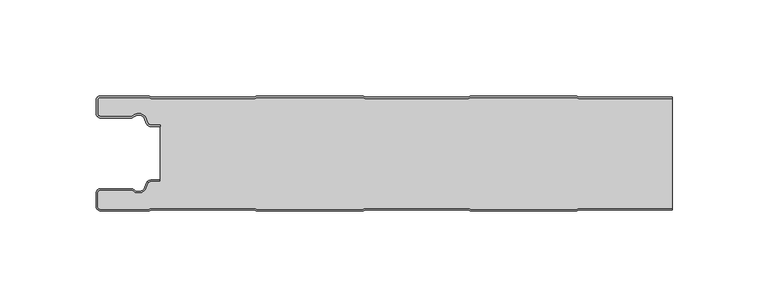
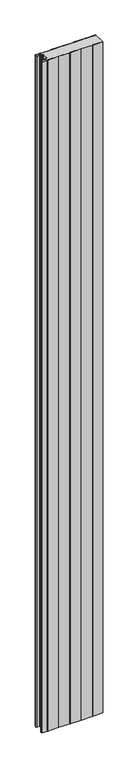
"""IFC4 building model written with IfcOpenShell, lengths in millimetres: plate geometry, ACH_Panel-Frigorífico_PUR-PIR : ACH_Panel-Frigorífico-PIR_60mm."""

from ifc_helpers import new_model, si_unit, point, frame_2d, origin, origin_with_axes, place, context, project, spatial, polyline, circle_curve, trimmed, segment, composite_curve, outline, extrude, source, transform, mapped, element, save


def plate_998a251c(model_context):
    return source(origin(), model_context, "Body", "SweptSolid", [
        extrude(outline(composite_curve([segment(trimmed(circle_curve(frame_2d((-147.49499, -9.0180361)), 2.50501), [point((-147.49499, -11.5230461))], [point((-150.0, -9.0180361))], False, "CARTESIAN"), True, "CONTINUOUS"), segment(polyline([(-150.0, -9.0180361), (-150.0, -2.50501)]), True, "CONTINUOUS"), segment(trimmed(circle_curve(frame_2d((-147.49499, -2.50501)), 2.50501), [point((-150.0, -2.50501))], [point((-147.49499, 0.0))], False, "CARTESIAN"), True, "CONTINUOUS"), segment(polyline([(-147.49499, 0.0), (-122.2103007, 0.0), (-121.028188, -0.6012024), (-67.6391467, -0.6012024), (-66.457034, 0.0), (-10.8776353, 0.0), (-9.6955227, -0.6012024), (43.6935186, -0.6012024), (44.8756313, 0.0), (100.45503, 0.0), (101.6371427, -0.6012024), (150.0, -0.6012024), (150.0, -1.4012024), (101.4453963, -1.4012024), (100.2632836, -0.8), (45.0673777, -0.8), (43.885265, -1.4012024), (-9.887269, -1.4012024), (-11.0693817, -0.8), (-66.2652876, -0.8), (-67.4474003, -1.4012024), (-121.2199344, -1.4012024), (-122.4020471, -0.8), (-147.49499, -0.8)]), True, "CONTINUOUS"), segment(trimmed(circle_curve(frame_2d((-147.49499, -2.50501)), 1.70501), [point((-147.49499, -0.8))], [point((-149.2, -2.50501))], True, "CARTESIAN"), True, "CONTINUOUS"), segment(polyline([(-149.2, -2.50501), (-149.2, -9.0180361)]), True, "CONTINUOUS"), segment(trimmed(circle_curve(frame_2d((-147.49499, -9.0180361)), 1.70501), [point((-149.2, -9.0180361))], [point((-147.49499, -10.7230461))], True, "CARTESIAN"), True, "CONTINUOUS"), segment(polyline([(-147.49499, -10.7230461), (-131.8173283, -10.7230461)]), True, "CONTINUOUS"), segment(trimmed(circle_curve(frame_2d((-131.8173283, -9.0180361)), 1.70501), [point((-131.8173283, -10.7230461))], [point((-130.6895701, -10.2967936))], True, "CARTESIAN"), True, "CONTINUOUS"), segment(trimmed(circle_curve(frame_2d((-127.8407481, -13.5270541)), 4.307014), [point((-130.6895701, -10.2967936))], [point((-123.7934788, -12.0539686))], False, "CARTESIAN"), True, "CONTINUOUS"), segment(polyline([(-123.7934788, -12.0539686), (-123.0450711, -14.1102019)]), True, "CONTINUOUS"), segment(trimmed(circle_curve(frame_2d((-121.4428858, -13.5270541)), 1.70501), [point((-123.0450711, -14.1102019))], [point((-121.4428858, -15.2320641))], True, "CARTESIAN"), True, "CONTINUOUS"), segment(polyline([(-121.4428858, -15.2320641), (-116.4328657, -15.2320641), (-116.4328657, -16.0320641), (-121.4428858, -16.0320641)]), True, "CONTINUOUS"), segment(trimmed(circle_curve(frame_2d((-121.4428858, -13.5270541)), 2.50501), [point((-121.4428858, -16.0320641))], [point((-123.7968252, -14.383818))], False, "CARTESIAN"), True, "CONTINUOUS"), segment(polyline([(-123.7968252, -14.383818), (-124.5452329, -12.3275847)]), True, "CONTINUOUS"), segment(trimmed(circle_curve(frame_2d((-127.8407481, -13.5270541)), 3.507014), [point((-124.5452329, -12.3275847))], [point((-130.1604199, -10.8967936))], True, "CARTESIAN"), True, "CONTINUOUS"), segment(trimmed(circle_curve(frame_2d((-131.8173283, -9.0180361)), 2.50501), [point((-130.1604199, -10.8967936))], [point((-131.8173283, -11.5230461))], False, "CARTESIAN"), True, "CONTINUOUS"), segment(polyline([(-131.8173283, -11.5230461), (-147.49499, -11.5230461)]), True, "CONTINUOUS")], self_intersect=False)), origin_with_axes(), (0.0, 0.0, 1.0), 3500.0),
        extrude(outline(composite_curve([segment(trimmed(circle_curve(frame_2d((-121.4428858, -13.5270541)), 1.70501), [point((-121.4428858, -15.2320641))], [point((-123.0450711, -14.1102019))], False, "CARTESIAN"), True, "CONTINUOUS"), segment(polyline([(-123.0450711, -14.1102019), (-123.7934788, -12.0539686)]), True, "CONTINUOUS"), segment(trimmed(circle_curve(frame_2d((-127.8407481, -13.5270541)), 4.307014), [point((-123.7934788, -12.0539686))], [point((-130.6895701, -10.2967936))], True, "CARTESIAN"), True, "CONTINUOUS"), segment(trimmed(circle_curve(frame_2d((-131.8173283, -9.0180361)), 1.70501), [point((-130.6895701, -10.2967936))], [point((-131.8173283, -10.7230461))], False, "CARTESIAN"), True, "CONTINUOUS"), segment(polyline([(-131.8173283, -10.7230461), (-147.49499, -10.7230461)]), True, "CONTINUOUS"), segment(trimmed(circle_curve(frame_2d((-147.49499, -9.0180361)), 1.70501), [point((-147.49499, -10.7230461))], [point((-149.2, -9.0180361))], False, "CARTESIAN"), True, "CONTINUOUS"), segment(polyline([(-149.2, -9.0180361), (-149.2, -2.50501)]), True, "CONTINUOUS"), segment(trimmed(circle_curve(frame_2d((-147.49499, -2.50501)), 1.70501), [point((-149.2, -2.50501))], [point((-147.49499, -0.8))], False, "CARTESIAN"), True, "CONTINUOUS"), segment(polyline([(-147.49499, -0.8), (-122.4020471, -0.8), (-121.2199344, -1.4012024), (-67.4474003, -1.4012024), (-66.2652876, -0.8), (-11.0693817, -0.8), (-9.887269, -1.4012024), (43.885265, -1.4012024), (45.0673777, -0.8), (100.2632836, -0.8), (101.4453963, -1.4012024), (150.0, -1.4012024), (150.0, -58.5987976), (101.4453963, -58.5987976), (100.2632836, -59.2), (45.0673777, -59.2), (43.885265, -58.5987976), (-9.887269, -58.5987976), (-11.0693817, -59.2), (-66.2652876, -59.2), (-67.4474003, -58.5987976), (-121.2199344, -58.5987976), (-122.4020471, -59.2), (-147.49499, -59.2)]), True, "CONTINUOUS"), segment(trimmed(circle_curve(frame_2d((-147.49499, -57.49499)), 1.70501), [point((-147.49499, -59.2))], [point((-149.2, -57.49499))], False, "CARTESIAN"), True, "CONTINUOUS"), segment(polyline([(-149.2, -57.49499), (-149.2, -50.9819639)]), True, "CONTINUOUS"), segment(trimmed(circle_curve(frame_2d((-147.49499, -50.9819639)), 1.70501), [point((-149.2, -50.9819639))], [point((-147.49499, -49.2769539))], False, "CARTESIAN"), True, "CONTINUOUS"), segment(polyline([(-147.49499, -49.2769539), (-131.8173283, -49.2769539)]), True, "CONTINUOUS"), segment(trimmed(circle_curve(frame_2d((-131.8173283, -50.9819639)), 1.70501), [point((-131.8173283, -49.2769539))], [point((-130.6895701, -49.7032064))], False, "CARTESIAN"), True, "CONTINUOUS"), segment(trimmed(circle_curve(frame_2d((-127.8407481, -46.4729459)), 4.307014), [point((-130.6895701, -49.7032064))], [point((-123.7934788, -47.9460314))], True, "CARTESIAN"), True, "CONTINUOUS"), segment(polyline([(-123.7934788, -47.9460314), (-123.0450711, -45.8897981)]), True, "CONTINUOUS"), segment(trimmed(circle_curve(frame_2d((-121.4428858, -46.4729459)), 1.70501), [point((-123.0450711, -45.8897981))], [point((-121.4428858, -44.7679359))], False, "CARTESIAN"), True, "CONTINUOUS"), segment(polyline([(-121.4428858, -44.7679359), (-116.4328657, -44.7679359), (-116.4328657, -15.2320641), (-121.4428858, -15.2320641)]), True, "CONTINUOUS")], self_intersect=False)), origin_with_axes(), (0.0, 0.0, 1.0), 3500.0),
        extrude(outline(composite_curve([segment(polyline([(-147.49499, -48.4769539), (-131.8173283, -48.4769539)]), True, "CONTINUOUS"), segment(trimmed(circle_curve(frame_2d((-131.8173283, -50.9819639)), 2.50501), [point((-131.8173283, -48.4769539))], [point((-130.1604199, -49.1032064))], False, "CARTESIAN"), True, "CONTINUOUS"), segment(trimmed(circle_curve(frame_2d((-127.8407481, -46.4729459)), 3.507014), [point((-130.1604199, -49.1032064))], [point((-124.5452329, -47.6724153))], True, "CARTESIAN"), True, "CONTINUOUS"), segment(polyline([(-124.5452329, -47.6724153), (-123.7968252, -45.616182)]), True, "CONTINUOUS"), segment(trimmed(circle_curve(frame_2d((-121.4428858, -46.4729459)), 2.50501), [point((-123.7968252, -45.616182))], [point((-121.4428858, -43.9679359))], False, "CARTESIAN"), True, "CONTINUOUS"), segment(polyline([(-121.4428858, -43.9679359), (-116.4328657, -43.9679359), (-116.4328657, -44.7679359), (-121.4428858, -44.7679359)]), True, "CONTINUOUS"), segment(trimmed(circle_curve(frame_2d((-121.4428858, -46.4729459)), 1.70501), [point((-121.4428858, -44.7679359))], [point((-123.0450711, -45.8897981))], True, "CARTESIAN"), True, "CONTINUOUS"), segment(polyline([(-123.0450711, -45.8897981), (-123.7934788, -47.9460314)]), True, "CONTINUOUS"), segment(trimmed(circle_curve(frame_2d((-127.8407481, -46.4729459)), 4.307014), [point((-123.7934788, -47.9460314))], [point((-130.6895701, -49.7032064))], False, "CARTESIAN"), True, "CONTINUOUS"), segment(trimmed(circle_curve(frame_2d((-131.8173283, -50.9819639)), 1.70501), [point((-130.6895701, -49.7032064))], [point((-131.8173283, -49.2769539))], True, "CARTESIAN"), True, "CONTINUOUS"), segment(polyline([(-131.8173283, -49.2769539), (-147.49499, -49.2769539)]), True, "CONTINUOUS"), segment(trimmed(circle_curve(frame_2d((-147.49499, -50.9819639)), 1.70501), [point((-147.49499, -49.2769539))], [point((-149.2, -50.9819639))], True, "CARTESIAN"), True, "CONTINUOUS"), segment(polyline([(-149.2, -50.9819639), (-149.2, -57.49499)]), True, "CONTINUOUS"), segment(trimmed(circle_curve(frame_2d((-147.49499, -57.49499)), 1.70501), [point((-149.2, -57.49499))], [point((-147.49499, -59.2))], True, "CARTESIAN"), True, "CONTINUOUS"), segment(polyline([(-147.49499, -59.2), (-122.4020471, -59.2), (-121.2199344, -58.5987976), (-67.4474003, -58.5987976), (-66.2652876, -59.2), (-11.0693817, -59.2), (-9.887269, -58.5987976), (43.885265, -58.5987976), (45.0673777, -59.2), (100.2632836, -59.2), (101.4453963, -58.5987976), (150.0, -58.5987976), (150.0, -59.3987976), (101.6371427, -59.3987976), (100.45503, -60.0), (44.8756313, -60.0), (43.6935186, -59.3987976), (-9.6955227, -59.3987976), (-10.8776353, -60.0), (-66.457034, -60.0), (-67.6391467, -59.3987976), (-121.028188, -59.3987976), (-122.2103007, -60.0), (-147.49499, -60.0)]), True, "CONTINUOUS"), segment(trimmed(circle_curve(frame_2d((-147.49499, -57.49499)), 2.50501), [point((-147.49499, -60.0))], [point((-150.0, -57.49499))], False, "CARTESIAN"), True, "CONTINUOUS"), segment(polyline([(-150.0, -57.49499), (-150.0, -50.9819639)]), True, "CONTINUOUS"), segment(trimmed(circle_curve(frame_2d((-147.49499, -50.9819639)), 2.50501), [point((-150.0, -50.9819639))], [point((-147.49499, -48.4769539))], False, "CARTESIAN"), True, "CONTINUOUS")], self_intersect=False)), origin_with_axes(), (0.0, 0.0, 1.0), 3500.0),
    ])


if __name__ == "__main__":
    model = new_model("IFC4")
    model_context = context("Model", 3, world=origin())
    ifc_project = project(units=[si_unit("LENGTHUNIT", "METRE", prefix="MILLI")], contexts=[model_context])
    site = spatial("IfcSite", under=ifc_project)
    building = spatial("IfcBuilding", under=site)
    placement = place(None, origin())
    plate_shape = plate_998a251c(model_context)
    element("IfcPlate", 1, ObjectType="ACH_Panel-Frigorífico_PUR-PIR : ACH_Panel-Frigorífico-PIR_60mm", at=placement, inside=building, context=model_context, shape_type="MappedRepresentation", body=[
        mapped(plate_shape, transform((0.0, 0.0, 0.0), x_axis=(1.0, 0.0, 0.0), y_axis=(0.0, 1.0, 0.0), z_axis=(0.0, 0.0, 1.0))),
    ])
    save(model, "model.ifc")
